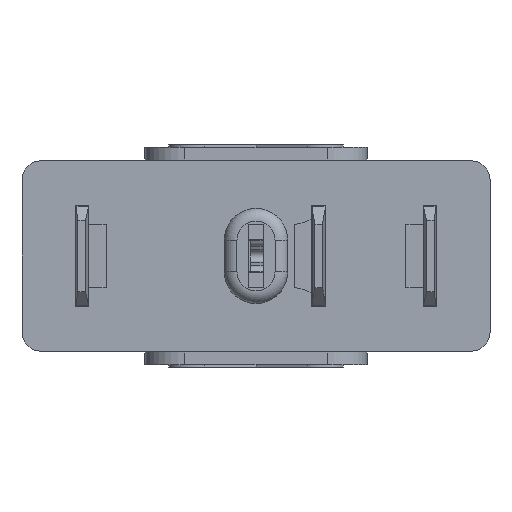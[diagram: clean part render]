
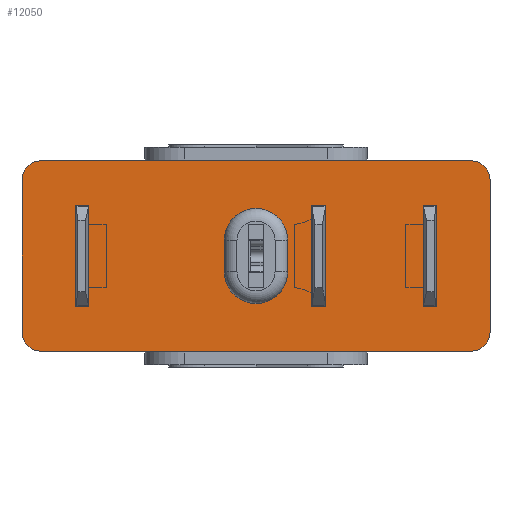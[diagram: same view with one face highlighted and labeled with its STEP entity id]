
A CAD part, front view. The second image highlights one B-rep face of the part: STEP entity #12050.
In plain terms, the highlighted planar face has unit normal (0, -1, 0).
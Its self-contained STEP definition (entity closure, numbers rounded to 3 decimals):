
#1256=CARTESIAN_POINT('',(13.55,0.,-4.8));
#1257=DIRECTION('',(0.,1.,0.));
#1258=DIRECTION('',(1.,0.,0.));
#1259=AXIS2_PLACEMENT_3D('',#1256,#1257,#1258);
#1261=DIRECTION('',(-1.,0.,0.));
#1262=VECTOR('',#1261,27.1);
#1263=CARTESIAN_POINT('',(13.55,0.,-6.));
#1264=LINE('',#1263,#1262);
#1265=CARTESIAN_POINT('',(-13.55,0.,-4.8));
#1266=DIRECTION('',(0.,1.,0.));
#1267=DIRECTION('',(0.,0.,-1.));
#1268=AXIS2_PLACEMENT_3D('',#1265,#1266,#1267);
#1270=DIRECTION('',(0.,0.,1.));
#1271=VECTOR('',#1270,9.6);
#1272=CARTESIAN_POINT('',(-14.75,0.,-4.8));
#1273=LINE('',#1272,#1271);
#1274=CARTESIAN_POINT('',(-13.55,0.,4.8));
#1275=DIRECTION('',(0.,1.,0.));
#1276=DIRECTION('',(-1.,0.,0.));
#1277=AXIS2_PLACEMENT_3D('',#1274,#1275,#1276);
#1279=DIRECTION('',(1.,0.,0.));
#1280=VECTOR('',#1279,27.1);
#1281=CARTESIAN_POINT('',(-13.55,0.,6.));
#1282=LINE('',#1281,#1280);
#1283=CARTESIAN_POINT('',(13.55,0.,4.8));
#1284=DIRECTION('',(0.,1.,0.));
#1285=DIRECTION('',(0.,0.,1.));
#1286=AXIS2_PLACEMENT_3D('',#1283,#1284,#1285);
#1288=DIRECTION('',(0.,0.,-1.));
#1289=VECTOR('',#1288,9.6);
#1290=CARTESIAN_POINT('',(14.75,0.,4.8));
#1291=LINE('',#1290,#1289);
#1292=CARTESIAN_POINT('',(0.,0.,-1.));
#1293=DIRECTION('',(0.,-1.,0.));
#1294=DIRECTION('',(-1.,0.,0.));
#1295=AXIS2_PLACEMENT_3D('',#1292,#1293,#1294);
#1297=DIRECTION('',(0.,0.,1.));
#1298=VECTOR('',#1297,2.);
#1299=CARTESIAN_POINT('',(2.,0.,-1.));
#1300=LINE('',#1299,#1298);
#1301=CARTESIAN_POINT('',(0.,0.,1.));
#1302=DIRECTION('',(0.,-1.,0.));
#1303=DIRECTION('',(1.,0.,0.));
#1304=AXIS2_PLACEMENT_3D('',#1301,#1302,#1303);
#1306=DIRECTION('',(0.,0.,-1.));
#1307=VECTOR('',#1306,2.);
#1308=CARTESIAN_POINT('',(-2.,0.,1.));
#1309=LINE('',#1308,#1307);
#1310=DIRECTION('',(0.,0.,1.));
#1311=VECTOR('',#1310,0.05);
#1312=CARTESIAN_POINT('',(-10.55,0.,3.15));
#1313=LINE('',#1312,#1311);
#1314=DIRECTION('',(-1.,0.,0.));
#1315=VECTOR('',#1314,0.85);
#1316=CARTESIAN_POINT('',(-10.55,0.,3.2));
#1317=LINE('',#1316,#1315);
#1318=DIRECTION('',(0.,0.,-1.));
#1319=VECTOR('',#1318,6.4);
#1320=CARTESIAN_POINT('',(-11.4,0.,3.2));
#1321=LINE('',#1320,#1319);
#1322=DIRECTION('',(1.,0.,0.));
#1323=VECTOR('',#1322,0.85);
#1324=CARTESIAN_POINT('',(-11.4,0.,-3.2));
#1325=LINE('',#1324,#1323);
#1326=DIRECTION('',(0.,0.,1.));
#1327=VECTOR('',#1326,0.05);
#1328=CARTESIAN_POINT('',(-10.55,0.,-3.2));
#1329=LINE('',#1328,#1327);
#1330=DIRECTION('',(0.,0.,1.));
#1331=VECTOR('',#1330,6.3);
#1332=CARTESIAN_POINT('',(-10.55,0.,-3.15));
#1333=LINE('',#1332,#1331);
#1334=DIRECTION('',(0.,0.,-1.));
#1335=VECTOR('',#1334,0.05);
#1336=CARTESIAN_POINT('',(10.55,0.,-3.15));
#1337=LINE('',#1336,#1335);
#1338=DIRECTION('',(1.,0.,0.));
#1339=VECTOR('',#1338,0.85);
#1340=CARTESIAN_POINT('',(10.55,0.,-3.2));
#1341=LINE('',#1340,#1339);
#1342=DIRECTION('',(0.,0.,1.));
#1343=VECTOR('',#1342,6.4);
#1344=CARTESIAN_POINT('',(11.4,0.,-3.2));
#1345=LINE('',#1344,#1343);
#1346=DIRECTION('',(-1.,0.,0.));
#1347=VECTOR('',#1346,0.85);
#1348=CARTESIAN_POINT('',(11.4,0.,3.2));
#1349=LINE('',#1348,#1347);
#1350=DIRECTION('',(0.,0.,-1.));
#1351=VECTOR('',#1350,0.05);
#1352=CARTESIAN_POINT('',(10.55,0.,3.2));
#1353=LINE('',#1352,#1351);
#1354=DIRECTION('',(0.,0.,-1.));
#1355=VECTOR('',#1354,6.3);
#1356=CARTESIAN_POINT('',(10.55,0.,3.15));
#1357=LINE('',#1356,#1355);
#1358=DIRECTION('',(0.,0.,1.));
#1359=VECTOR('',#1358,2.);
#1360=CARTESIAN_POINT('',(4.35,0.,-1.));
#1361=LINE('',#1360,#1359);
#1362=DIRECTION('',(0.,0.,1.));
#1363=VECTOR('',#1362,2.15);
#1364=CARTESIAN_POINT('',(4.35,0.,1.));
#1365=LINE('',#1364,#1363);
#1366=DIRECTION('',(0.,0.,1.));
#1367=VECTOR('',#1366,0.05);
#1368=CARTESIAN_POINT('',(4.35,0.,3.15));
#1369=LINE('',#1368,#1367);
#1370=DIRECTION('',(-1.,0.,0.));
#1371=VECTOR('',#1370,0.85);
#1372=CARTESIAN_POINT('',(4.35,0.,3.2));
#1373=LINE('',#1372,#1371);
#1374=DIRECTION('',(0.,0.,-1.));
#1375=VECTOR('',#1374,6.4);
#1376=CARTESIAN_POINT('',(3.5,0.,3.2));
#1377=LINE('',#1376,#1375);
#1378=DIRECTION('',(1.,0.,0.));
#1379=VECTOR('',#1378,0.85);
#1380=CARTESIAN_POINT('',(3.5,0.,-3.2));
#1381=LINE('',#1380,#1379);
#1382=DIRECTION('',(0.,0.,1.));
#1383=VECTOR('',#1382,0.05);
#1384=CARTESIAN_POINT('',(4.35,0.,-3.2));
#1385=LINE('',#1384,#1383);
#1386=DIRECTION('',(0.,0.,1.));
#1387=VECTOR('',#1386,2.15);
#1388=CARTESIAN_POINT('',(4.35,0.,-3.15));
#1389=LINE('',#1388,#1387);
#8568=CARTESIAN_POINT('',(14.75,0.,-4.8));
#8569=CARTESIAN_POINT('',(13.55,0.,-6.));
#8570=VERTEX_POINT('',#8568);
#8571=VERTEX_POINT('',#8569);
#8572=CARTESIAN_POINT('',(-13.55,0.,-6.));
#8573=VERTEX_POINT('',#8572);
#8574=CARTESIAN_POINT('',(-14.75,0.,-4.8));
#8575=VERTEX_POINT('',#8574);
#8576=CARTESIAN_POINT('',(-14.75,0.,4.8));
#8577=VERTEX_POINT('',#8576);
#8578=CARTESIAN_POINT('',(-13.55,0.,6.));
#8579=VERTEX_POINT('',#8578);
#8580=CARTESIAN_POINT('',(13.55,0.,6.));
#8581=VERTEX_POINT('',#8580);
#8582=CARTESIAN_POINT('',(14.75,0.,4.8));
#8583=VERTEX_POINT('',#8582);
#8584=CARTESIAN_POINT('',(11.4,0.,-3.2));
#8585=CARTESIAN_POINT('',(11.4,0.,3.2));
#8586=VERTEX_POINT('',#8584);
#8587=VERTEX_POINT('',#8585);
#8588=CARTESIAN_POINT('',(10.55,0.,3.2));
#8589=VERTEX_POINT('',#8588);
#8590=CARTESIAN_POINT('',(10.55,0.,-3.2));
#8591=VERTEX_POINT('',#8590);
#8592=CARTESIAN_POINT('',(4.35,0.,3.2));
#8593=CARTESIAN_POINT('',(3.5,0.,3.2));
#8594=VERTEX_POINT('',#8592);
#8595=VERTEX_POINT('',#8593);
#8596=CARTESIAN_POINT('',(3.5,0.,-3.2));
#8597=VERTEX_POINT('',#8596);
#8598=CARTESIAN_POINT('',(4.35,0.,-3.2));
#8599=VERTEX_POINT('',#8598);
#8600=CARTESIAN_POINT('',(-11.4,0.,3.2));
#8601=CARTESIAN_POINT('',(-11.4,0.,-3.2));
#8602=VERTEX_POINT('',#8600);
#8603=VERTEX_POINT('',#8601);
#8604=CARTESIAN_POINT('',(-10.55,0.,-3.2));
#8605=VERTEX_POINT('',#8604);
#8606=CARTESIAN_POINT('',(-10.55,0.,3.2));
#8607=VERTEX_POINT('',#8606);
#8946=CARTESIAN_POINT('',(-2.,0.,-1.));
#8947=CARTESIAN_POINT('',(2.,0.,-1.));
#8948=VERTEX_POINT('',#8946);
#8949=VERTEX_POINT('',#8947);
#8950=CARTESIAN_POINT('',(2.,0.,1.));
#8951=VERTEX_POINT('',#8950);
#8952=CARTESIAN_POINT('',(-2.,0.,1.));
#8953=VERTEX_POINT('',#8952);
#9138=CARTESIAN_POINT('',(-10.55,0.,-3.15));
#9139=CARTESIAN_POINT('',(-10.55,0.,3.15));
#9140=VERTEX_POINT('',#9138);
#9141=VERTEX_POINT('',#9139);
#9266=CARTESIAN_POINT('',(10.55,0.,3.15));
#9267=CARTESIAN_POINT('',(10.55,0.,-3.15));
#9268=VERTEX_POINT('',#9266);
#9269=VERTEX_POINT('',#9267);
#9450=CARTESIAN_POINT('',(4.35,0.,-3.15));
#9451=CARTESIAN_POINT('',(4.35,0.,-1.));
#9452=VERTEX_POINT('',#9450);
#9453=VERTEX_POINT('',#9451);
#9454=CARTESIAN_POINT('',(4.35,0.,1.));
#9455=CARTESIAN_POINT('',(4.35,0.,3.15));
#9456=VERTEX_POINT('',#9454);
#9457=VERTEX_POINT('',#9455);
#11975=CARTESIAN_POINT('',(0.,0.,0.));
#11976=DIRECTION('',(0.,1.,0.));
#11977=DIRECTION('',(0.,0.,1.));
#11978=AXIS2_PLACEMENT_3D('',#11975,#11976,#11977);
#11979=PLANE('',#11978);
#11981=ORIENTED_EDGE('',*,*,#11980,.T.);
#11983=ORIENTED_EDGE('',*,*,#11982,.T.);
#11985=ORIENTED_EDGE('',*,*,#11984,.T.);
#11987=ORIENTED_EDGE('',*,*,#11986,.T.);
#11989=ORIENTED_EDGE('',*,*,#11988,.T.);
#11991=ORIENTED_EDGE('',*,*,#11990,.T.);
#11993=ORIENTED_EDGE('',*,*,#11992,.T.);
#11995=ORIENTED_EDGE('',*,*,#11994,.T.);
#11996=EDGE_LOOP('',(#11981,#11983,#11985,#11987,#11989,#11991,#11993,#11995));
#11997=FACE_OUTER_BOUND('',#11996,.F.);
#11999=ORIENTED_EDGE('',*,*,#11998,.T.);
#12001=ORIENTED_EDGE('',*,*,#12000,.T.);
#12003=ORIENTED_EDGE('',*,*,#12002,.T.);
#12005=ORIENTED_EDGE('',*,*,#12004,.T.);
#12006=EDGE_LOOP('',(#11999,#12001,#12003,#12005));
#12007=FACE_BOUND('',#12006,.F.);
#12009=ORIENTED_EDGE('',*,*,#12008,.T.);
#12011=ORIENTED_EDGE('',*,*,#12010,.T.);
#12012=ORIENTED_EDGE('',*,*,#11053,.T.);
#12014=ORIENTED_EDGE('',*,*,#12013,.T.);
#12015=ORIENTED_EDGE('',*,*,#11820,.T.);
#12016=ORIENTED_EDGE('',*,*,#11960,.T.);
#12017=EDGE_LOOP('',(#12009,#12011,#12012,#12014,#12015,#12016));
#12018=FACE_BOUND('',#12017,.F.);
#12020=ORIENTED_EDGE('',*,*,#12019,.T.);
#12022=ORIENTED_EDGE('',*,*,#12021,.T.);
#12023=ORIENTED_EDGE('',*,*,#10780,.T.);
#12025=ORIENTED_EDGE('',*,*,#12024,.T.);
#12027=ORIENTED_EDGE('',*,*,#12026,.T.);
#12029=ORIENTED_EDGE('',*,*,#12028,.T.);
#12030=EDGE_LOOP('',(#12020,#12022,#12023,#12025,#12027,#12029));
#12031=FACE_BOUND('',#12030,.F.);
#12033=ORIENTED_EDGE('',*,*,#12032,.T.);
#12035=ORIENTED_EDGE('',*,*,#12034,.T.);
#12037=ORIENTED_EDGE('',*,*,#12036,.T.);
#12039=ORIENTED_EDGE('',*,*,#12038,.T.);
#12041=ORIENTED_EDGE('',*,*,#12040,.T.);
#12043=ORIENTED_EDGE('',*,*,#12042,.T.);
#12045=ORIENTED_EDGE('',*,*,#12044,.T.);
#12047=ORIENTED_EDGE('',*,*,#12046,.T.);
#12048=EDGE_LOOP('',(#12033,#12035,#12037,#12039,#12041,#12043,#12045,#12047));
#12049=FACE_BOUND('',#12048,.F.);
#12050=ADVANCED_FACE('',(#11997,#12007,#12018,#12031,#12049),#11979,.F.);
#1260=CIRCLE('',#1259,1.2);
#1269=CIRCLE('',#1268,1.2);
#1278=CIRCLE('',#1277,1.2);
#1287=CIRCLE('',#1286,1.2);
#1296=CIRCLE('',#1295,2.);
#1305=CIRCLE('',#1304,2.);
#10780=EDGE_CURVE('',#8586,#8587,#1345,.T.);
#11053=EDGE_CURVE('',#8602,#8603,#1321,.T.);
#11820=EDGE_CURVE('',#8605,#9140,#1329,.T.);
#11960=EDGE_CURVE('',#9140,#9141,#1333,.T.);
#11980=EDGE_CURVE('',#8570,#8571,#1260,.T.);
#11982=EDGE_CURVE('',#8571,#8573,#1264,.T.);
#11984=EDGE_CURVE('',#8573,#8575,#1269,.T.);
#11986=EDGE_CURVE('',#8575,#8577,#1273,.T.);
#11988=EDGE_CURVE('',#8577,#8579,#1278,.T.);
#11990=EDGE_CURVE('',#8579,#8581,#1282,.T.);
#11992=EDGE_CURVE('',#8581,#8583,#1287,.T.);
#11994=EDGE_CURVE('',#8583,#8570,#1291,.T.);
#11998=EDGE_CURVE('',#8948,#8949,#1296,.T.);
#12000=EDGE_CURVE('',#8949,#8951,#1300,.T.);
#12002=EDGE_CURVE('',#8951,#8953,#1305,.T.);
#12004=EDGE_CURVE('',#8953,#8948,#1309,.T.);
#12008=EDGE_CURVE('',#9141,#8607,#1313,.T.);
#12010=EDGE_CURVE('',#8607,#8602,#1317,.T.);
#12013=EDGE_CURVE('',#8603,#8605,#1325,.T.);
#12019=EDGE_CURVE('',#9269,#8591,#1337,.T.);
#12021=EDGE_CURVE('',#8591,#8586,#1341,.T.);
#12024=EDGE_CURVE('',#8587,#8589,#1349,.T.);
#12026=EDGE_CURVE('',#8589,#9268,#1353,.T.);
#12028=EDGE_CURVE('',#9268,#9269,#1357,.T.);
#12032=EDGE_CURVE('',#9453,#9456,#1361,.T.);
#12034=EDGE_CURVE('',#9456,#9457,#1365,.T.);
#12036=EDGE_CURVE('',#9457,#8594,#1369,.T.);
#12038=EDGE_CURVE('',#8594,#8595,#1373,.T.);
#12040=EDGE_CURVE('',#8595,#8597,#1377,.T.);
#12042=EDGE_CURVE('',#8597,#8599,#1381,.T.);
#12044=EDGE_CURVE('',#8599,#9452,#1385,.T.);
#12046=EDGE_CURVE('',#9452,#9453,#1389,.T.);
